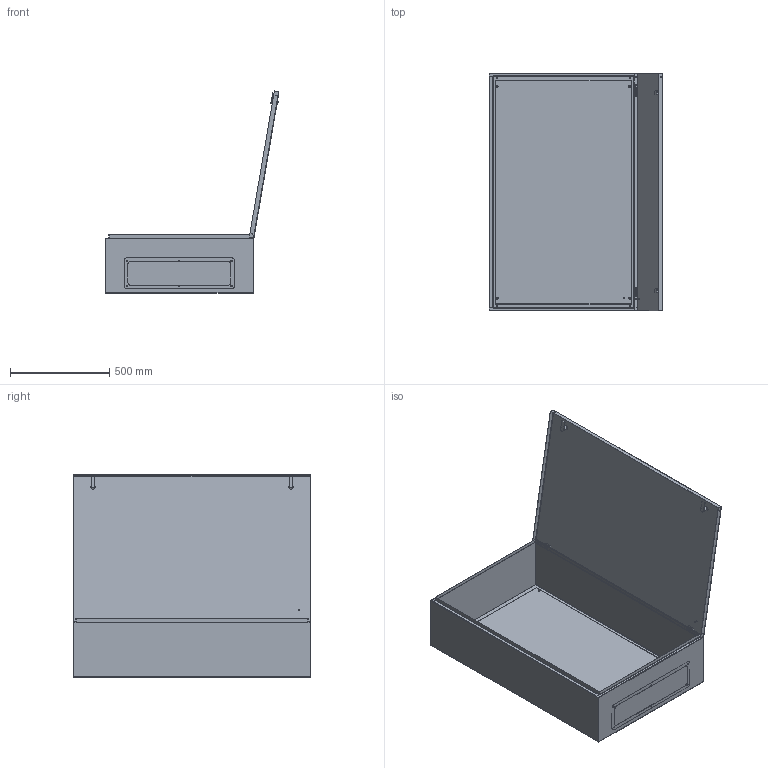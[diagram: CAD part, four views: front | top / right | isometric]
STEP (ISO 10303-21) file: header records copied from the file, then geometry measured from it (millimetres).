
FILE_DESCRIPTION (( 'STEP AP214' ), '1' );
FILE_NAME ('ﾙﾌﾏ06.STEP', '2020-03-12T09:07:02', ( '' ), ( '' ), 'SwSTEP 2.0', 'SolidWorks 2018', '' );
FILE_SCHEMA (( 'AUTOMOTIVE_DESIGN' ));
Length unit declared in the file: millimetre
Products named in the file (11): 扻豵鵨06; 相礤朦_觐痫篑_忮瘐06; Ïåòëÿ_Äâåðè_P54; ﾇ瑟鶴; 沓艜_眈翴錪06; ïåòëÿ_êîïðóñà_IP54; 拟屦黖IP54_06; Ïàíåëü_êîðïóñ_íèæ06; Ãàéêà_Ì6; ﾙﾌﾏ06; Ïàíåëü_Ââîäà04
Assembly tree (16 placements, depth 2):
  ﾙﾌﾏ06
    扻豵鵨06
    相礤朦_觐痫篑_忮瘐06
    Ïàíåëü_êîðïóñ_íèæ06
    沓艜_眈翴錪06
    拟屦黖IP54_06
    ïåòëÿ_êîïðóñà_IP54  x2
    Ïåòëÿ_Äâåðè_P54  x2
    Ãàéêà_Ì6  x4
    ﾇ瑟鶴  x2
    Ïàíåëü_Ââîäà04
Bounding box: 877.95 x 1200 x 1020.36 mm (x, y, z)
Volume: 4747264 mm3; surface area: 7897536.3 mm2
Topology: 16 solids, 16 shells, 565 faces, 1318 edges, 798 vertices
Faces by surface type: plane 315, cylinder 184, cone 50, bspline 16
Entity records: 13511 total; most frequent: CARTESIAN_POINT 3063, DIRECTION 2071, ORIENTED_EDGE 1978, EDGE_CURVE 989, AXIS2_PLACEMENT_3D 716, LINE 639, VECTOR 639, VERTEX_POINT 596
